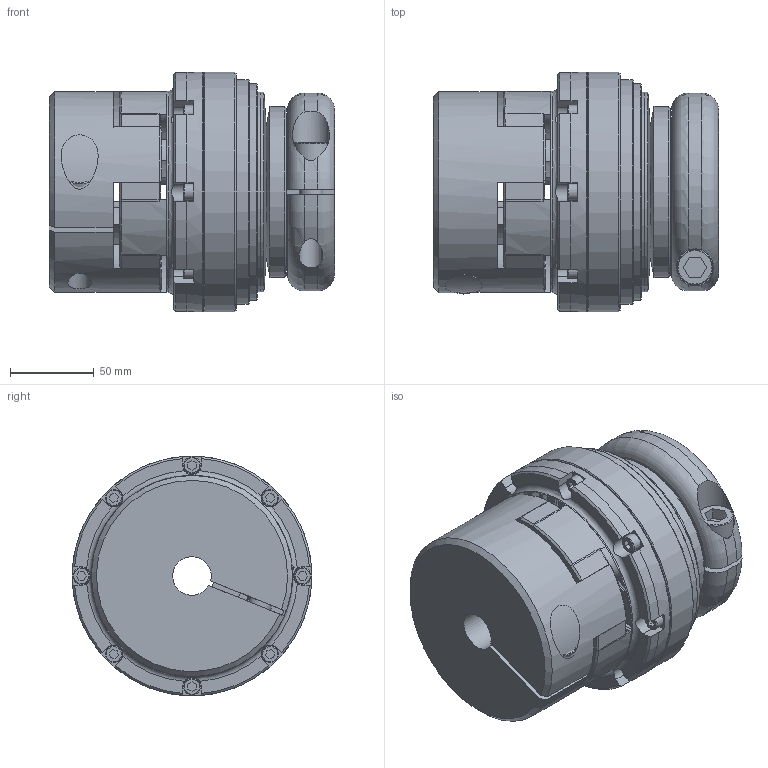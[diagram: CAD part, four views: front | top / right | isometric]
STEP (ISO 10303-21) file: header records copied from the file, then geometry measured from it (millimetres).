
FILE_DESCRIPTION(/* description */ ('Unknown'),/* implementation_level */ '2;1');
FILE_NAME(/* name */ 'SKVA-EK 900',/* time_stamp */ '2025-02-12T14:30:34+01:00',/* author */ ('Unknown'),/* organization */ ('Unknown'),/* preprocessor_version */ 'ST-DEVELOPER v18.102',/* originating_system */ 'Solid Edge',/* authorisation */ 'Unknown');
FILE_SCHEMA (('AUTOMOTIVE_DESIGN {1 0 10303 214 3 1 1}'));
Length unit declared in the file: millimetre
Products named in the file (1): SKVA-EK 900
Bounding box: 170 x 143 x 143 mm (x, y, z)
Volume: 1796309.5 mm3; surface area: 193028.7 mm2
Topology: 3 solids, 5 shells, 403 faces, 1037 edges, 657 vertices
Faces by surface type: plane 159, bspline 126, cylinder 70, cone 35, torus 13
Full cylindrical faces by diameter (mm): 10 x8, 14 x6, 21 x2, 22 x2, 27 x1, 61.4 x1, 102 x1, 119 x2, 120 x1, 129 x1, 134 x1, 143 x2
Entity records: 13999 total; most frequent: CARTESIAN_POINT 5350, ORIENTED_EDGE 1936, DIRECTION 1412, EDGE_CURVE 968, VERTEX_POINT 636, AXIS2_PLACEMENT_3D 506, EDGE_LOOP 486, FACE_BOUND 486
